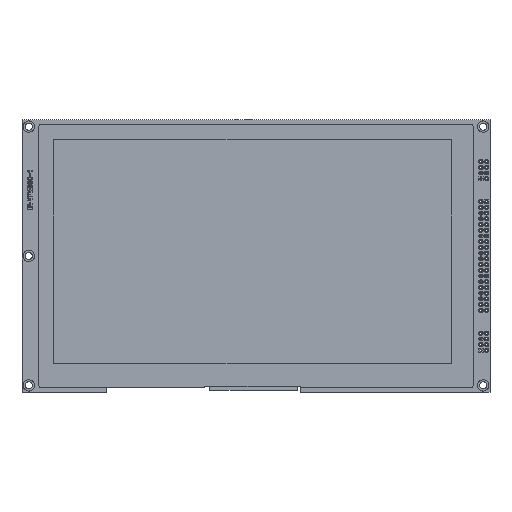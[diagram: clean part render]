
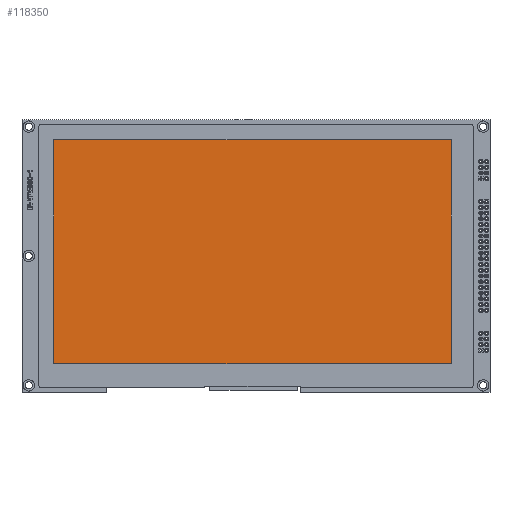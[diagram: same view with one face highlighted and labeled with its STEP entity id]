
A CAD part, top view. The second image highlights one B-rep face of the part: STEP entity #118350.
In plain terms, the highlighted free-form (B-spline) face has degree [1, 1] with [2, 2] control points.
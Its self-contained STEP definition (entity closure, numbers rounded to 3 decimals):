
#108=(GEOMETRIC_REPRESENTATION_CONTEXT(2)PARAMETRIC_REPRESENTATION_CONTEXT()REPRESENTATION_CONTEXT('',''));
#44576=CARTESIAN_POINT('',(14.05,112.06,0.8));
#44577=CARTESIAN_POINT('',(190.69,112.06,0.8));
#44578=CARTESIAN_POINT('',(14.05,112.06,7.2));
#44579=CARTESIAN_POINT('',(190.69,112.06,7.2));
#44580=B_SPLINE_SURFACE_WITH_KNOTS('',1,1,((#44576,#44577),(#44578,#44579)),.UNSPECIFIED.,.F.,.F.,.U.,(2,2),(2,2),(-0.006,0.),(0.014,0.191),.UNSPECIFIED.);
#44599=CARTESIAN_POINT('',(190.69,12.7,7.2));
#44600=CARTESIAN_POINT('',(190.69,112.06,7.2));
#44601=CARTESIAN_POINT('',(190.69,12.7,0.8));
#44602=CARTESIAN_POINT('',(190.69,112.06,0.8));
#44603=B_SPLINE_SURFACE_WITH_KNOTS('',1,1,((#44599,#44600),(#44601,#44602)),.UNSPECIFIED.,.F.,.F.,.U.,(2,2),(2,2),(0.,0.006),(0.013,0.112),.UNSPECIFIED.);
#44622=CARTESIAN_POINT('',(14.05,12.7,7.2));
#44623=CARTESIAN_POINT('',(190.69,12.7,7.2));
#44624=CARTESIAN_POINT('',(14.05,12.7,0.8));
#44625=CARTESIAN_POINT('',(190.69,12.7,0.8));
#44626=B_SPLINE_SURFACE_WITH_KNOTS('',1,1,((#44622,#44623),(#44624,#44625)),.UNSPECIFIED.,.F.,.F.,.U.,(2,2),(2,2),(0.,0.006),(0.014,0.191),.UNSPECIFIED.);
#44643=CARTESIAN_POINT('',(14.05,12.7,0.8));
#44644=CARTESIAN_POINT('',(14.05,112.06,0.8));
#44645=CARTESIAN_POINT('',(14.05,12.7,7.2));
#44646=CARTESIAN_POINT('',(14.05,112.06,7.2));
#44647=B_SPLINE_SURFACE_WITH_KNOTS('',1,1,((#44643,#44644),(#44645,#44646)),.UNSPECIFIED.,.F.,.F.,.U.,(2,2),(2,2),(-0.006,0.),(0.013,0.112),.UNSPECIFIED.);
#118184=CARTESIAN_POINT('',(14.05,112.06,7.2));
#118185=VERTEX_POINT('',#118184);
#118202=CARTESIAN_POINT('',(190.69,112.06,7.2));
#118203=VERTEX_POINT('',#118202);
#118204=CARTESIAN_POINT('',(190.69,12.7,7.2));
#118205=CARTESIAN_POINT('',(190.69,112.06,7.2));
#118206=CARTESIAN_POINT('',(14.05,12.7,7.2));
#118207=CARTESIAN_POINT('',(14.05,112.06,7.2));
#118208=B_SPLINE_SURFACE_WITH_KNOTS('',1,1,((#118204,#118205),(#118206,#118207)),.UNSPECIFIED.,.F.,.F.,.U.,(2,2),(2,2),(-0.191,-0.014),(0.013,0.112),.UNSPECIFIED.);
#118209=CARTESIAN_POINT('',(0.,0.014));
#118210=CARTESIAN_POINT('',(0.,0.191));
#118211=B_SPLINE_CURVE_WITH_KNOTS('',1,(#118209,#118210),.UNSPECIFIED.,.F.,.F.,(2,2),(0.014,0.191),.UNSPECIFIED.);
#118212=DEFINITIONAL_REPRESENTATION('',(#118211),#108);
#118213=PCURVE('',#44580,#118212);
#118214=CARTESIAN_POINT('',(-0.014,0.112));
#118215=CARTESIAN_POINT('',(-0.191,0.112));
#118216=B_SPLINE_CURVE_WITH_KNOTS('',1,(#118214,#118215),.UNSPECIFIED.,.F.,.F.,(2,2),(0.014,0.191),.UNSPECIFIED.);
#118217=DEFINITIONAL_REPRESENTATION('',(#118216),#108);
#118218=PCURVE('',#118208,#118217);
#118219=CARTESIAN_POINT('',(14.05,112.06,7.2));
#118220=CARTESIAN_POINT('',(190.69,112.06,7.2));
#118221=B_SPLINE_CURVE_WITH_KNOTS('',1,(#118219,#118220),.UNSPECIFIED.,.F.,.F.,(2,2),(0.014,0.191),.UNSPECIFIED.);
#118222=INTERSECTION_CURVE('',#118221,(#118213,#118218),.PCURVE_S1.);
#118223=EDGE_CURVE('',#118185,#118203,#118222,.T.);
#118245=CARTESIAN_POINT('',(14.05,12.7,7.2));
#118246=VERTEX_POINT('',#118245);
#118263=CARTESIAN_POINT('',(0.,0.013));
#118264=CARTESIAN_POINT('',(0.,0.112));
#118265=B_SPLINE_CURVE_WITH_KNOTS('',1,(#118263,#118264),.UNSPECIFIED.,.F.,.F.,(2,2),(0.013,0.112),.UNSPECIFIED.);
#118266=DEFINITIONAL_REPRESENTATION('',(#118265),#108);
#118267=PCURVE('',#44647,#118266);
#118268=CARTESIAN_POINT('',(-0.014,0.013));
#118269=CARTESIAN_POINT('',(-0.014,0.112));
#118270=B_SPLINE_CURVE_WITH_KNOTS('',1,(#118268,#118269),.UNSPECIFIED.,.F.,.F.,(2,2),(0.013,0.112),.UNSPECIFIED.);
#118271=DEFINITIONAL_REPRESENTATION('',(#118270),#108);
#118272=PCURVE('',#118208,#118271);
#118273=CARTESIAN_POINT('',(14.05,12.7,7.2));
#118274=CARTESIAN_POINT('',(14.05,112.06,7.2));
#118275=B_SPLINE_CURVE_WITH_KNOTS('',1,(#118273,#118274),.UNSPECIFIED.,.F.,.F.,(2,2),(0.013,0.112),.UNSPECIFIED.);
#118276=INTERSECTION_CURVE('',#118275,(#118267,#118272),.PCURVE_S1.);
#118277=EDGE_CURVE('',#118246,#118185,#118276,.T.);
#118284=CARTESIAN_POINT('',(190.69,12.7,7.2));
#118285=VERTEX_POINT('',#118284);
#118302=CARTESIAN_POINT('',(0.,0.191));
#118303=CARTESIAN_POINT('',(0.,0.014));
#118304=B_SPLINE_CURVE_WITH_KNOTS('',1,(#118302,#118303),.UNSPECIFIED.,.F.,.F.,(2,2),(-0.191,-0.014),.UNSPECIFIED.);
#118305=DEFINITIONAL_REPRESENTATION('',(#118304),#108);
#118306=PCURVE('',#44626,#118305);
#118307=CARTESIAN_POINT('',(-0.191,0.013));
#118308=CARTESIAN_POINT('',(-0.014,0.013));
#118309=B_SPLINE_CURVE_WITH_KNOTS('',1,(#118307,#118308),.UNSPECIFIED.,.F.,.F.,(2,2),(-0.191,-0.014),.UNSPECIFIED.);
#118310=DEFINITIONAL_REPRESENTATION('',(#118309),#108);
#118311=PCURVE('',#118208,#118310);
#118312=CARTESIAN_POINT('',(190.69,12.7,7.2));
#118313=CARTESIAN_POINT('',(14.05,12.7,7.2));
#118314=B_SPLINE_CURVE_WITH_KNOTS('',1,(#118312,#118313),.UNSPECIFIED.,.F.,.F.,(2,2),(-0.191,-0.014),.UNSPECIFIED.);
#118315=INTERSECTION_CURVE('',#118314,(#118306,#118311),.PCURVE_S1.);
#118316=EDGE_CURVE('',#118285,#118246,#118315,.T.);
#118324=CARTESIAN_POINT('',(0.,0.112));
#118325=CARTESIAN_POINT('',(0.,0.013));
#118326=B_SPLINE_CURVE_WITH_KNOTS('',1,(#118324,#118325),.UNSPECIFIED.,.F.,.F.,(2,2),(-0.112,-0.013),.UNSPECIFIED.);
#118327=DEFINITIONAL_REPRESENTATION('',(#118326),#108);
#118328=PCURVE('',#44603,#118327);
#118329=CARTESIAN_POINT('',(-0.191,0.112));
#118330=CARTESIAN_POINT('',(-0.191,0.013));
#118331=B_SPLINE_CURVE_WITH_KNOTS('',1,(#118329,#118330),.UNSPECIFIED.,.F.,.F.,(2,2),(-0.112,-0.013),.UNSPECIFIED.);
#118332=DEFINITIONAL_REPRESENTATION('',(#118331),#108);
#118333=PCURVE('',#118208,#118332);
#118334=CARTESIAN_POINT('',(190.69,112.06,7.2));
#118335=CARTESIAN_POINT('',(190.69,12.7,7.2));
#118336=B_SPLINE_CURVE_WITH_KNOTS('',1,(#118334,#118335),.UNSPECIFIED.,.F.,.F.,(2,2),(-0.112,-0.013),.UNSPECIFIED.);
#118337=INTERSECTION_CURVE('',#118336,(#118328,#118333),.PCURVE_S1.);
#118338=EDGE_CURVE('',#118203,#118285,#118337,.T.);
#118344=ORIENTED_EDGE('',*,*,#118223,.F.);
#118345=ORIENTED_EDGE('',*,*,#118277,.F.);
#118346=ORIENTED_EDGE('',*,*,#118316,.F.);
#118347=ORIENTED_EDGE('',*,*,#118338,.F.);
#118348=EDGE_LOOP('',(#118344,#118345,#118346,#118347));
#118349=FACE_BOUND('',#118348,.T.);
#118350=ADVANCED_FACE('',(#118349),#118208,.F.);
